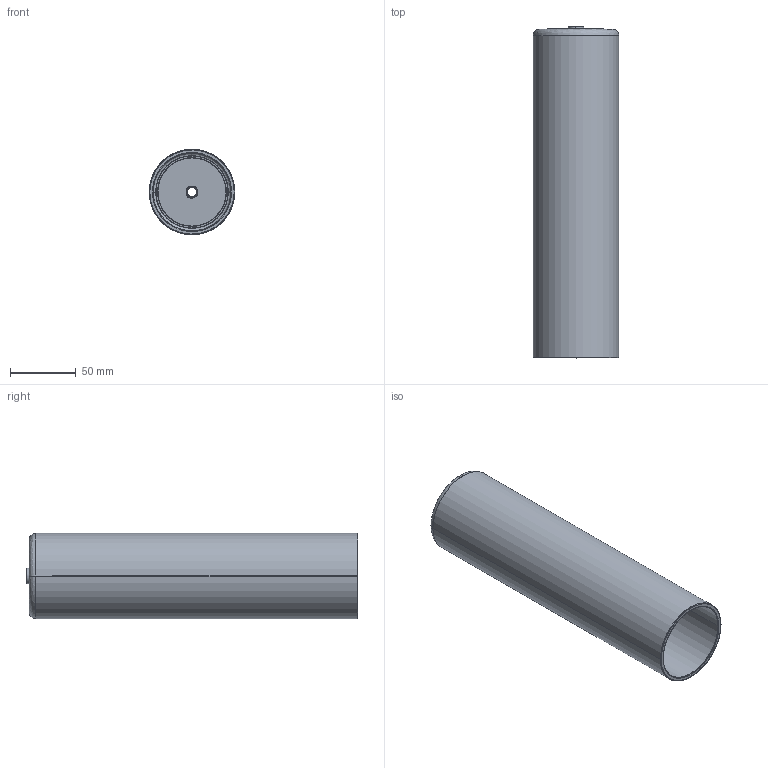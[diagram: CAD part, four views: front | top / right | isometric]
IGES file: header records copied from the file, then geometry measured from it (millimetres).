
Start section: SolidWorks IGES file using analytic representation for surfaces
Global section: file name: F:\GABRYSIA\MODELE 3D\_CAMELEON\KLOSZE I OPRAWY WWW\CYLINDER_M_8541_8542_8543_WWW\CYLINDER_M_8541_8542_8543.IGS; native system: SolidWorks 2017; preprocessor: SolidWorks 2017; author: Togambi; date: 200518.115440; units: millimetre
Bounding box: 65 x 252.3 x 65 mm (x, y, z)
Surface area: 141191.1 mm2 (no closed solid volume)
Topology: 0 solids, 0 shells, 138 faces, 1866 edges, 1866 vertices
Faces by surface type: bspline 95, revolution 43
